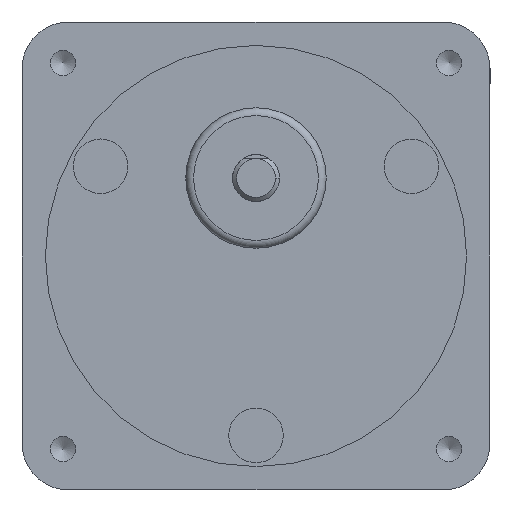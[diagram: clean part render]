
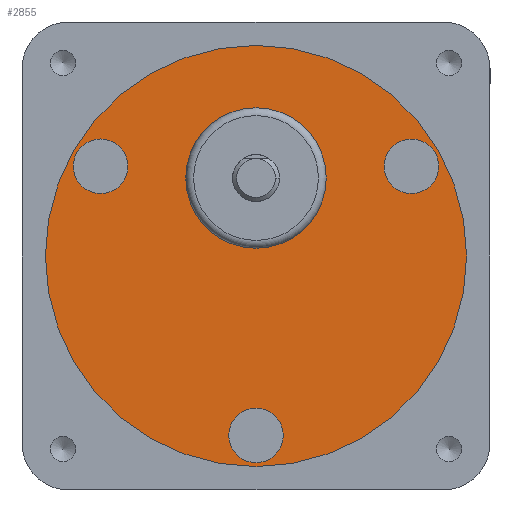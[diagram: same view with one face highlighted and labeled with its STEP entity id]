
A CAD part, front view. The second image highlights one B-rep face of the part: STEP entity #2855.
In plain terms, the highlighted planar face has unit normal (0, -1, 0).
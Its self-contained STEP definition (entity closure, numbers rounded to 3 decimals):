
#35=FACE_BOUND('',#486,.T.);
#36=FACE_BOUND('',#487,.T.);
#37=FACE_BOUND('',#488,.T.);
#38=FACE_BOUND('',#489,.T.);
#108=PLANE('',#3187);
#292=FACE_OUTER_BOUND('',#485,.T.);
#485=EDGE_LOOP('',(#2128));
#486=EDGE_LOOP('',(#2129));
#487=EDGE_LOOP('',(#2130));
#488=EDGE_LOOP('',(#2131));
#489=EDGE_LOOP('',(#2132));
#661=CIRCLE('',#3087,3.5);
#663=CIRCLE('',#3091,3.5);
#665=CIRCLE('',#3095,3.5);
#714=CIRCLE('',#3186,27.);
#715=CIRCLE('',#3188,9.);
#1275=VERTEX_POINT('',#4435);
#1277=VERTEX_POINT('',#4442);
#1279=VERTEX_POINT('',#4449);
#1340=VERTEX_POINT('',#4643);
#1341=VERTEX_POINT('',#4647);
#1541=EDGE_CURVE('',#1275,#1275,#661,.T.);
#1544=EDGE_CURVE('',#1277,#1277,#663,.T.);
#1547=EDGE_CURVE('',#1279,#1279,#665,.T.);
#1639=EDGE_CURVE('',#1340,#1340,#714,.T.);
#1640=EDGE_CURVE('',#1341,#1341,#715,.T.);
#2128=ORIENTED_EDGE('',*,*,#1639,.T.);
#2129=ORIENTED_EDGE('',*,*,#1541,.T.);
#2130=ORIENTED_EDGE('',*,*,#1544,.T.);
#2131=ORIENTED_EDGE('',*,*,#1547,.T.);
#2132=ORIENTED_EDGE('',*,*,#1640,.F.);
#2855=ADVANCED_FACE('',(#292,#35,#36,#37,#38),#108,.F.);
#3087=AXIS2_PLACEMENT_3D('',#4436,#3470,#3471);
#3091=AXIS2_PLACEMENT_3D('',#4443,#3479,#3480);
#3095=AXIS2_PLACEMENT_3D('',#4450,#3488,#3489);
#3186=AXIS2_PLACEMENT_3D('',#4645,#3713,#3714);
#3187=AXIS2_PLACEMENT_3D('',#4646,#3715,#3716);
#3188=AXIS2_PLACEMENT_3D('',#4648,#3717,#3718);
#3470=DIRECTION('center_axis',(0.,1.,0.));
#3471=DIRECTION('ref_axis',(0.5,0.,-0.866));
#3479=DIRECTION('center_axis',(0.,1.,0.));
#3480=DIRECTION('ref_axis',(0.5,0.,0.866));
#3488=DIRECTION('center_axis',(0.,1.,0.));
#3489=DIRECTION('ref_axis',(-1.,0.,0.));
#3713=DIRECTION('center_axis',(0.,-1.,0.));
#3714=DIRECTION('ref_axis',(-1.,0.,0.));
#3715=DIRECTION('center_axis',(0.,1.,0.));
#3716=DIRECTION('ref_axis',(0.,0.,1.));
#3717=DIRECTION('center_axis',(0.,-1.,0.));
#3718=DIRECTION('ref_axis',(-1.,0.,0.));
#4435=CARTESIAN_POINT('',(18.169,0.5,14.531));
#4436=CARTESIAN_POINT('Origin',(19.919,0.5,11.5));
#4442=CARTESIAN_POINT('',(-21.669,0.5,8.469));
#4443=CARTESIAN_POINT('Origin',(-19.919,0.5,11.5));
#4449=CARTESIAN_POINT('',(3.5,0.5,-23.));
#4450=CARTESIAN_POINT('Origin',(0.,0.5,-23.));
#4643=CARTESIAN_POINT('',(27.,0.5,0.));
#4645=CARTESIAN_POINT('Origin',(0.,0.5,0.));
#4646=CARTESIAN_POINT('Origin',(0.,0.5,0.));
#4647=CARTESIAN_POINT('',(9.,0.5,10.));
#4648=CARTESIAN_POINT('Origin',(0.,0.5,10.));
